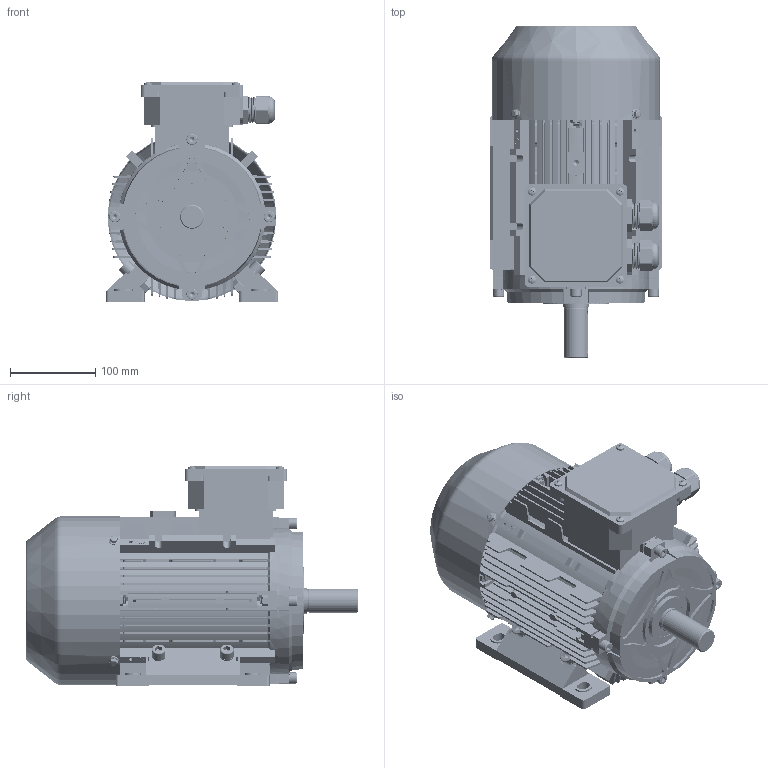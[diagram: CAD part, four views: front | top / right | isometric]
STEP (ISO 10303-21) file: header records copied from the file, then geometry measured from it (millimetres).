
FILE_DESCRIPTION (( 'STEP AP203' ), '1' );
FILE_NAME ('ME3-100B3 3D.STEP', '2024-06-18T07:54:25', ( 'User' ), ( 'China' ), 'SwSTEP 2.0', 'SolidWorks 2018', '' );
FILE_SCHEMA (( 'CONFIG_CONTROL_DESIGN' ));
Length unit declared in the file: millimetre
Products named in the file (23): hexagon socket head cap screws gb_GB_FASTENER_SCREWS_HSHCS M8X25-S; deep groove ball bearings gb_Rolling bearings 6206 GB 276-94; wave single coil spring lock washers gb_GB_FASTENER_WASHER_WSLW 10; ME3-100转轴（206.5）; circlips for shaft--type b gb_GB_CONNECTING_PIECE_RINGS_CSB 22; hexagon socket head cap screws gb_GB_FASTENER_SCREWS_HSHCS M10X30-S; 蚐猾45X30X7; MS112-132 諉盄碟釱; hex nuts, style 2-grades ab gb_GB_HEXAGON_TYPE13 M10 Normal Style-S; ME 3 100 瑞珔; M24 蹟杶; cross recessed pan head screws gb_GB_CROSS_SCREWS_TYPE1 M5X8-8  H type-S; M24 蹟杶簸; MS112-132諉盄碟裔; hexagon socket head cap screws gb_GB_FASTENER_SCREWS_HSHCS M8X35-S; ME3-100 儂褲; ME3-100 瑞欶; hex nuts, style 2-grades ab gb_GB_HEXAGON_TYPE13 M8 Normal Style-S; ME3-100菁褐; hex flange bolts-heavy grade b gb_GB_FASTENER_BOLT_HFBB M5X10-S; wave single coil spring lock washers gb_GB_FASTENER_WASHER_WSLW 8; ME3-100ヶ傷裔B3; ME3-100B3  3D
Assembly tree (63 placements, depth 2):
  ME3-100B3  3D
    ME3-100 儂褲
    ME3-100菁褐  x2
    ME3-100ヶ傷裔B3  x2
    deep groove ball bearings gb_Rolling bearings 6206 GB 276-94  x2
    ME3-100转轴（206.5）
    蚐猾45X30X7
    ME 3 100 瑞珔
    circlips for shaft--type b gb_GB_CONNECTING_PIECE_RINGS_CSB 22
    MS112-132 諉盄碟釱
    M24 蹟杶  x2
    M24 蹟杶簸  x2
    hexagon socket head cap screws gb_GB_FASTENER_SCREWS_HSHCS M8X35-S  x7
    hex nuts, style 2-grades ab gb_GB_HEXAGON_TYPE13 M8 Normal Style-S  x9
    wave single coil spring lock washers gb_GB_FASTENER_WASHER_WSLW 8  x4
    hexagon socket head cap screws gb_GB_FASTENER_SCREWS_HSHCS M8X25-S
    wave single coil spring lock washers gb_GB_FASTENER_WASHER_WSLW 10  x4
    hexagon socket head cap screws gb_GB_FASTENER_SCREWS_HSHCS M10X30-S  x4
    hex nuts, style 2-grades ab gb_GB_HEXAGON_TYPE13 M10 Normal Style-S  x4
    cross recessed pan head screws gb_GB_CROSS_SCREWS_TYPE1 M5X8-8  H type-S  x8
    MS112-132諉盄碟裔
    ME3-100 瑞欶
    hex flange bolts-heavy grade b gb_GB_FASTENER_BOLT_HFBB M5X10-S  x4
Bounding box: 201.21 x 388.69 x 258 mm (x, y, z)
Volume: 1966692.1 mm3; surface area: 1196006.6 mm2
Topology: 63 solids, 64 shells, 8629 faces, 20361 edges, 11828 vertices
Faces by surface type: cone 3414, cylinder 2608, plane 2187, torus 256, bspline 84, sphere 80
Entity records: 126874 total; most frequent: CARTESIAN_POINT 32830, ORIENTED_EDGE 19216, DIRECTION 18696, EDGE_CURVE 9608, AXIS2_PLACEMENT_3D 6552, VERTEX_POINT 5950, VECTOR 5592, LINE 5592
